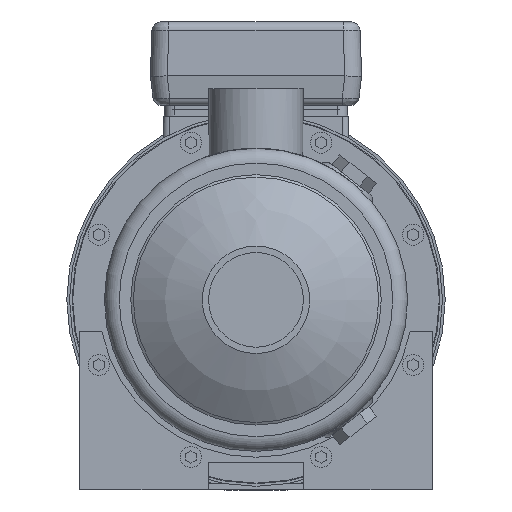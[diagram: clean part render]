
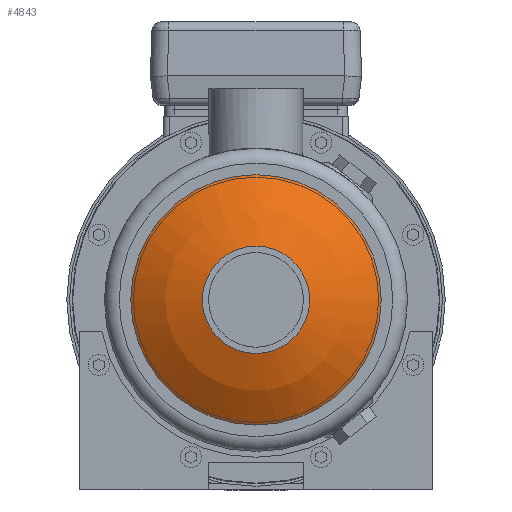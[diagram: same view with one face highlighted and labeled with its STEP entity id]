
A CAD part, left-side view. The second image highlights one B-rep face of the part: STEP entity #4843.
In plain terms, the highlighted spherical face has radius 100 mm.
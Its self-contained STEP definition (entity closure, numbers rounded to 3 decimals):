
#87=SPHERICAL_SURFACE('',#6501,100.);
#1102=ORIENTED_EDGE('',*,*,#2443,.T.);
#1103=ORIENTED_EDGE('',*,*,#2442,.F.);
#2442=EDGE_CURVE('',#3117,#3117,#3579,.T.);
#2443=EDGE_CURVE('',#3118,#3118,#3580,.T.);
#3117=VERTEX_POINT('',#8701);
#3118=VERTEX_POINT('',#8704);
#3579=CIRCLE('',#6500,25.4);
#3580=CIRCLE('',#6502,59.25);
#3802=EDGE_LOOP('',(#1102));
#3803=EDGE_LOOP('',(#1103));
#4240=FACE_BOUND('',#3802,.T.);
#4241=FACE_BOUND('',#3803,.T.);
#4843=ADVANCED_FACE('',(#4240,#4241),#87,.T.);
#6500=AXIS2_PLACEMENT_3D('',#8700,#7103,#7104);
#6501=AXIS2_PLACEMENT_3D('',#8702,#7105,#7106);
#6502=AXIS2_PLACEMENT_3D('',#8703,#7107,#7108);
#7103=DIRECTION('',(-1.,0.,0.));
#7104=DIRECTION('',(0.,0.,1.));
#7105=DIRECTION('',(-1.,0.,0.));
#7106=DIRECTION('',(0.,0.,1.));
#7107=DIRECTION('',(-1.,0.,0.));
#7108=DIRECTION('',(0.,0.,1.));
#8700=CARTESIAN_POINT('',(-82.02,0.,0.));
#8701=CARTESIAN_POINT('',(-82.02,0.,25.4));
#8702=CARTESIAN_POINT('',(14.7,0.,0.));
#8703=CARTESIAN_POINT('',(-65.857,0.,0.));
#8704=CARTESIAN_POINT('',(-65.857,0.,59.25));
